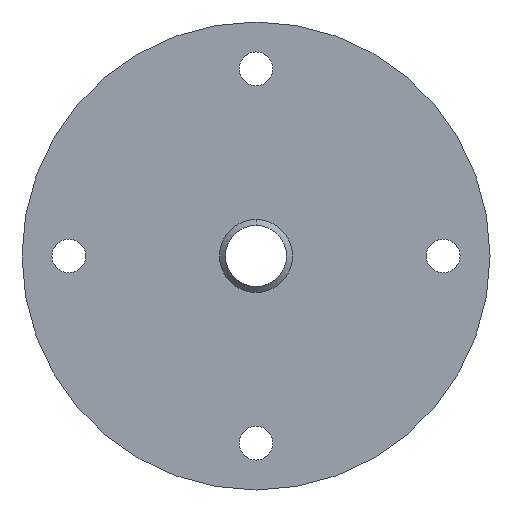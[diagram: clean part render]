
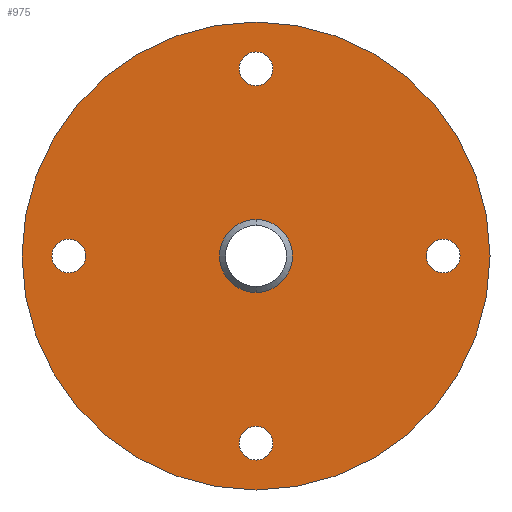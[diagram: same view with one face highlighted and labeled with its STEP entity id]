
A CAD part, left-side view. The second image highlights one B-rep face of the part: STEP entity #975.
In plain terms, the highlighted planar face has unit normal (-1, 0, 0).
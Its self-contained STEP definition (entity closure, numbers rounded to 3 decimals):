
#644=CARTESIAN_POINT('POINT11500',(-5.,50.,-4.5));
#645=VERTEX_POINT('VERTEX11500',#644);
#654=CARTESIAN_POINT('POINT11502',(-5.,50.,4.5));
#655=VERTEX_POINT('VERTEX11502',#654);
#656=CARTESIAN_POINT('POS17293',(-5.,50.,
   0.));
#657=DIRECTION('DIR26689',(1.,0.,0.));
#658=DIRECTION('DIR26690',(0.,0.,-1.));
#659=AXIS2_PLACEMENT_3D('AXIS9397',#656,#657,#658);
#660=CIRCLE('ELLIPSE4617',#659,4.5);
#661=EDGE_CURVE('EDGE18127',#655,#645,#660,.T.);
#690=EDGE_CURVE('EDGE18131',#645,#655,#660,.T.);
#695=CARTESIAN_POINT('POINT11504',(-5.,4.5,50.));
#696=VERTEX_POINT('VERTEX11504',#695);
#705=CARTESIAN_POINT('POINT11506',(-5.,-4.5,50.));
#706=VERTEX_POINT('VERTEX11506',#705);
#707=CARTESIAN_POINT('POS17298',(-5.,0.,
   50.));
#708=DIRECTION('DIR26697',(1.,0.,0.));
#709=DIRECTION('DIR26698',(0.,1.,0.));
#710=AXIS2_PLACEMENT_3D('AXIS9400',#707,#708,#709);
#711=CIRCLE('ELLIPSE4619',#710,4.5);
#712=EDGE_CURVE('EDGE18133',#706,#696,#711,.T.);
#741=EDGE_CURVE('EDGE18137',#696,#706,#711,.T.);
#746=CARTESIAN_POINT('POINT11508',(-5.,-50.,
   4.5));
#747=VERTEX_POINT('VERTEX11508',#746);
#756=CARTESIAN_POINT('POINT11510',(-5.,-50.,
   -4.5));
#757=VERTEX_POINT('VERTEX11510',#756);
#758=CARTESIAN_POINT('POS17303',(-5.,-50.,
   0.));
#759=DIRECTION('DIR26705',(1.,0.,0.));
#760=DIRECTION('DIR26706',(0.,0.,1.));
#761=AXIS2_PLACEMENT_3D('AXIS9403',#758,#759,#760);
#762=CIRCLE('ELLIPSE4621',#761,4.5);
#763=EDGE_CURVE('EDGE18139',#757,#747,#762,.T.);
#792=EDGE_CURVE('EDGE18143',#747,#757,#762,.T.);
#797=CARTESIAN_POINT('POINT11512',(-5.,-4.5,
   -50.));
#798=VERTEX_POINT('VERTEX11512',#797);
#807=CARTESIAN_POINT('POINT11514',(-5.,4.5,
   -50.));
#808=VERTEX_POINT('VERTEX11514',#807);
#809=CARTESIAN_POINT('POS17308',(-5.,0.,
   -50.));
#810=DIRECTION('DIR26713',(1.,0.,0.));
#811=DIRECTION('DIR26714',(0.,-1.,0.));
#812=AXIS2_PLACEMENT_3D('AXIS9406',#809,#810,#811);
#813=CIRCLE('ELLIPSE4623',#812,4.5);
#814=EDGE_CURVE('EDGE18145',#808,#798,#813,.T.);
#843=EDGE_CURVE('EDGE18149',#798,#808,#813,.T.);
#848=CARTESIAN_POINT('POINT11516',(-5.,0.,
   9.75));
#849=VERTEX_POINT('VERTEX11516',#848);
#856=CARTESIAN_POINT('POINT11517',(-5.,0.,
   -9.75));
#857=VERTEX_POINT('VERTEX11517',#856);
#858=CARTESIAN_POINT('POS17313',(-5.,0.,0.));
#859=DIRECTION('DIR26721',(1.,0.,0.));
#860=DIRECTION('DIR26722',(0.,0.,1.));
#861=AXIS2_PLACEMENT_3D('AXIS9409',#858,#859,#860);
#862=CIRCLE('ELLIPSE4625',#861,9.75);
#863=EDGE_CURVE('EDGE18151',#857,#849,#862,.T.);
#883=EDGE_CURVE('EDGE18153',#849,#857,#862,.T.);
#935=ORIENTED_EDGE('COEDGE36299',*,*,#883,.T.);
#936=ORIENTED_EDGE('COEDGE36300',*,*,#863,.T.);
#937=EDGE_LOOP('NONE',(#935,#936));
#938=FACE_BOUND('LOOP1',#937,.T.);
#939=ORIENTED_EDGE('COEDGE36301',*,*,#843,.T.);
#940=ORIENTED_EDGE('COEDGE36302',*,*,#814,.T.);
#941=EDGE_LOOP('NONE',(#939,#940));
#942=FACE_BOUND('LOOP1',#941,.T.);
#943=ORIENTED_EDGE('COEDGE36303',*,*,#792,.T.);
#944=ORIENTED_EDGE('COEDGE36304',*,*,#763,.T.);
#945=EDGE_LOOP('NONE',(#943,#944));
#946=FACE_BOUND('LOOP1',#945,.T.);
#947=ORIENTED_EDGE('COEDGE36305',*,*,#741,.T.);
#948=ORIENTED_EDGE('COEDGE36306',*,*,#712,.T.);
#949=EDGE_LOOP('NONE',(#947,#948));
#950=FACE_BOUND('LOOP1',#949,.T.);
#951=ORIENTED_EDGE('COEDGE36307',*,*,#690,.T.);
#952=ORIENTED_EDGE('COEDGE36308',*,*,#661,.T.);
#953=EDGE_LOOP('NONE',(#951,#952));
#954=FACE_BOUND('LOOP1',#953,.T.);
#955=CARTESIAN_POINT('POINT11520',(-5.,0.,-62.5));
#956=VERTEX_POINT('VERTEX11520',#955);
#957=CARTESIAN_POINT('POINT11521',(-5.,0.,
   62.5));
#958=VERTEX_POINT('VERTEX11521',#957);
#959=CARTESIAN_POINT('POS17318',(-5.,0.,0.));
#960=DIRECTION('DIR26730',(-1.,0.,0.));
#961=DIRECTION('DIR26731',(0.,0.,-1.));
#962=AXIS2_PLACEMENT_3D('AXIS9413',#959,#960,#961);
#963=CIRCLE('ELLIPSE4627',#962,62.5);
#964=EDGE_CURVE('EDGE18156',#956,#958,#963,.T.);
#965=ORIENTED_EDGE('COEDGE36309',*,*,#964,.T.);
#966=EDGE_CURVE('EDGE18157',#958,#956,#963,.T.);
#967=ORIENTED_EDGE('COEDGE36310',*,*,#966,.T.);
#968=EDGE_LOOP('NONE',(#965,#967));
#969=FACE_BOUND('LOOP1',#968,.T.);
#970=CARTESIAN_POINT('POS17319',(-5.,0.,0.));
#971=DIRECTION('DIR26732',(-1.,0.,0.));
#972=DIRECTION('DIR26733',(0.,1.,0.));
#973=AXIS2_PLACEMENT_3D('AXIS9414',#970,#971,#972);
#974=PLANE('PLANE2638',#973);
#975=ADVANCED_FACE('FACE7835',(#938,#942,#946,#950,#954,#969),#974,.T.);
